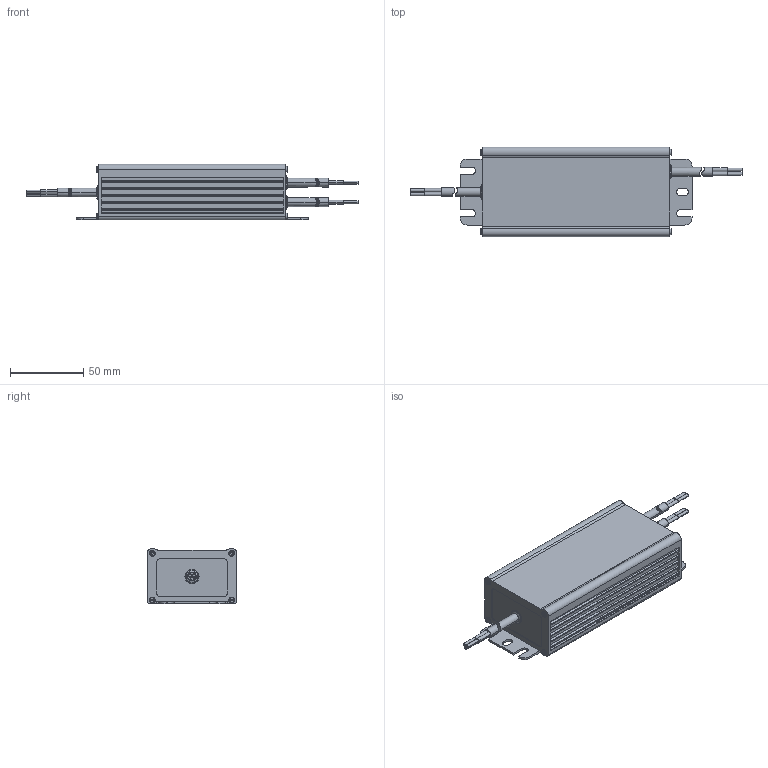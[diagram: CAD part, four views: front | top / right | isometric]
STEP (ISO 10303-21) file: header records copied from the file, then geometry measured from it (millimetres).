
FILE_DESCRIPTION((''),'2;1');
FILE_NAME('15012153_DMEC_158X61X37-8_3X305','2018-03-09T',('juergen.hrach'),(''),'PRO/ENGINEER BY PARAMETRIC TECHNOLOGY CORPORATION, 2015200','PRO/ENGINEER BY PARAMETRIC TECHNOLOGY CORPORATION, 2015200','');
FILE_SCHEMA(('AUTOMOTIVE_DESIGN { 1 0 10303 214 1 1 1 1 }'));
Length unit declared in the file: millimetre
Products named in the file (1): 15012153_DMEC_158X61X37-8_3X305
Bounding box: 226.17 x 61 x 37.79 mm (x, y, z)
Volume: 59118 mm3; surface area: 68456.8 mm2
Topology: 6 solids, 10 shells, 574 faces, 1458 edges, 959 vertices
Faces by surface type: plane 332, cylinder 202, torus 28, sphere 12
Entity records: 22439 total; most frequent: CARTESIAN_POINT 3351, DIRECTION 3008, ORIENTED_EDGE 2916, PRESENTATION_STYLE_ASSIGNMENT 1464, STYLED_ITEM 1464, CURVE_STYLE 1458, EDGE_CURVE 1458, AXIS2_PLACEMENT_3D 1034
